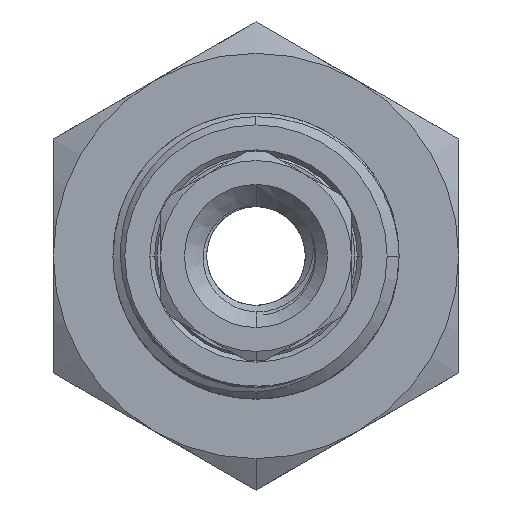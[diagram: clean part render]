
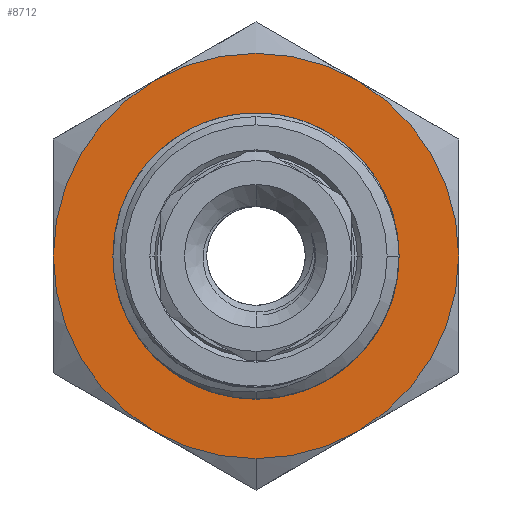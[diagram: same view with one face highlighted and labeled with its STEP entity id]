
A CAD part, front view. The second image highlights one B-rep face of the part: STEP entity #8712.
In plain terms, the highlighted planar face has unit normal (0, -1, 0).
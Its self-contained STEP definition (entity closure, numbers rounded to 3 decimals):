
#35 = CARTESIAN_POINT ( 'NONE',  ( 0., 10., 0. ) ) ;
#152 = CARTESIAN_POINT ( 'NONE',  ( -5.098, 10., -3.084 ) ) ;
#609 = CARTESIAN_POINT ( 'NONE',  ( 4.25, 10., -7.361 ) ) ;
#945 = AXIS2_PLACEMENT_3D ( 'NONE', #7595, #2870, #10724 ) ;
#962 = VERTEX_POINT ( 'NONE', #1435 ) ;
#966 = ORIENTED_EDGE ( 'NONE', *, *, #5799, .F. ) ;
#970 = FACE_BOUND ( 'NONE', #13805, .T. ) ;
#1306 = AXIS2_PLACEMENT_3D ( 'NONE', #5708, #9120, #1471 ) ;
#1435 = CARTESIAN_POINT ( 'NONE',  ( 8.5, 10., 0. ) ) ;
#1471 = DIRECTION ( 'NONE',  ( -0.5, 0., -0.866 ) ) ;
#1490 = DIRECTION ( 'NONE',  ( 0., 1., 0. ) ) ;
#1552 = EDGE_LOOP ( 'NONE', ( #11827, #12400, #3809, #8392, #966, #8370, #13989 ) ) ;
#1782 = CARTESIAN_POINT ( 'NONE',  ( 0., 10., 0. ) ) ;
#1849 = CARTESIAN_POINT ( 'NONE',  ( 0., 10., -8.5 ) ) ;
#1971 = EDGE_CURVE ( 'NONE', #9298, #13643, #8487, .T. ) ;
#1983 = CIRCLE ( 'NONE', #10104, 8.5 ) ;
#2010 = CARTESIAN_POINT ( 'NONE',  ( -4.25, 10., 7.361 ) ) ;
#2171 = ORIENTED_EDGE ( 'NONE', *, *, #1971, .T. ) ;
#2359 = CARTESIAN_POINT ( 'NONE',  ( 0., 10., 0. ) ) ;
#2370 = DIRECTION ( 'NONE',  ( 0., 1., 0. ) ) ;
#2431 = DIRECTION ( 'NONE',  ( 0., 1., 0. ) ) ;
#2562 = CARTESIAN_POINT ( 'NONE',  ( -4.25, 10., -7.361 ) ) ;
#2847 = EDGE_CURVE ( 'NONE', #7799, #9298, #4750, .T. ) ;
#2870 = DIRECTION ( 'NONE',  ( 0., -1., 0. ) ) ;
#3144 = AXIS2_PLACEMENT_3D ( 'NONE', #35, #12398, #6868 ) ;
#3288 = DIRECTION ( 'NONE',  ( 0., 1., 0. ) ) ;
#3383 = CARTESIAN_POINT ( 'NONE',  ( 0., 10., 0. ) ) ;
#3528 = EDGE_CURVE ( 'NONE', #13537, #10804, #7992, .T. ) ;
#3584 = CARTESIAN_POINT ( 'NONE',  ( -5.725, 10., -1.729 ) ) ;
#3603 = DIRECTION ( 'NONE',  ( 0.5, 0., 0.866 ) ) ;
#3809 = ORIENTED_EDGE ( 'NONE', *, *, #13885, .T. ) ;
#4327 = PLANE ( 'NONE',  #945 ) ;
#4446 = VERTEX_POINT ( 'NONE', #11579 ) ;
#4556 = DIRECTION ( 'NONE',  ( 0.5, 0., 0.866 ) ) ;
#4591 = CARTESIAN_POINT ( 'NONE',  ( -5.413, 10., -2.573 ) ) ;
#4750 = CIRCLE ( 'NONE', #13795, 5.959 ) ;
#5211 = ORIENTED_EDGE ( 'NONE', *, *, #14034, .T. ) ;
#5261 = AXIS2_PLACEMENT_3D ( 'NONE', #5354, #14283, #5567 ) ;
#5354 = CARTESIAN_POINT ( 'NONE',  ( 0., 10., 0. ) ) ;
#5567 = DIRECTION ( 'NONE',  ( -1., 0., 0. ) ) ;
#5579 = CARTESIAN_POINT ( 'NONE',  ( 0., 10., 0. ) ) ;
#5690 = CIRCLE ( 'NONE', #6422, 5.958 ) ;
#5708 = CARTESIAN_POINT ( 'NONE',  ( 0., 10., 0. ) ) ;
#5799 = EDGE_CURVE ( 'NONE', #962, #14288, #13916, .T. ) ;
#5943 = DIRECTION ( 'NONE',  ( -0.5, 0., -0.866 ) ) ;
#6422 = AXIS2_PLACEMENT_3D ( 'NONE', #2359, #2431, #10204 ) ;
#6448 = B_SPLINE_CURVE_WITH_KNOTS ( 'NONE', 3,
 ( #152, #13460, #4591, #12507 ),
 .UNSPECIFIED., .F., .F.,
 ( 4, 4 ),
 ( 0., 1. ),
 .UNSPECIFIED. ) ;
#6737 = AXIS2_PLACEMENT_3D ( 'NONE', #3383, #7817, #4556 ) ;
#6868 = DIRECTION ( 'NONE',  ( 1., 0., 0. ) ) ;
#6914 = ORIENTED_EDGE ( 'NONE', *, *, #7736, .T. ) ;
#7178 = VERTEX_POINT ( 'NONE', #2010 ) ;
#7236 = EDGE_CURVE ( 'NONE', #9598, #7178, #9755, .T. ) ;
#7521 = DIRECTION ( 'NONE',  ( 0., 1., 0. ) ) ;
#7531 = B_SPLINE_CURVE_WITH_KNOTS ( 'NONE', 3,
 ( #11501, #9246, #3584, #13829 ),
 .UNSPECIFIED., .F., .F.,
 ( 4, 4 ),
 ( 0., 1. ),
 .UNSPECIFIED. ) ;
#7574 = CARTESIAN_POINT ( 'NONE',  ( 0., 10., 0. ) ) ;
#7595 = CARTESIAN_POINT ( 'NONE',  ( 0., 10., 0. ) ) ;
#7697 = CARTESIAN_POINT ( 'NONE',  ( -5.783, 10., -1.434 ) ) ;
#7736 = EDGE_CURVE ( 'NONE', #4446, #7799, #7531, .T. ) ;
#7799 = VERTEX_POINT ( 'NONE', #7697 ) ;
#7817 = DIRECTION ( 'NONE',  ( 0., -1., 0. ) ) ;
#7898 = CARTESIAN_POINT ( 'NONE',  ( -5.098, 10., -3.084 ) ) ;
#7974 = ORIENTED_EDGE ( 'NONE', *, *, #2847, .T. ) ;
#7992 = CIRCLE ( 'NONE', #8462, 8.5 ) ;
#8307 = CARTESIAN_POINT ( 'NONE',  ( 0., 10., -5.958 ) ) ;
#8370 = ORIENTED_EDGE ( 'NONE', *, *, #8420, .F. ) ;
#8392 = ORIENTED_EDGE ( 'NONE', *, *, #12624, .T. ) ;
#8420 = EDGE_CURVE ( 'NONE', #9598, #962, #12555, .T. ) ;
#8462 = AXIS2_PLACEMENT_3D ( 'NONE', #9207, #1490, #5943 ) ;
#8487 = CIRCLE ( 'NONE', #3144, 5.958 ) ;
#8693 = VERTEX_POINT ( 'NONE', #1849 ) ;
#8712 = ADVANCED_FACE ( 'NONE', ( #970, #12841 ), #4327, .T. ) ;
#8958 = DIRECTION ( 'NONE',  ( -0.971, 0., -0.241 ) ) ;
#9120 = DIRECTION ( 'NONE',  ( 0., -1., 0. ) ) ;
#9207 = CARTESIAN_POINT ( 'NONE',  ( 0., 10., 0. ) ) ;
#9246 = CARTESIAN_POINT ( 'NONE',  ( -5.644, 10., -2.018 ) ) ;
#9298 = VERTEX_POINT ( 'NONE', #9373 ) ;
#9373 = CARTESIAN_POINT ( 'NONE',  ( 5.958, 10., 0. ) ) ;
#9598 = VERTEX_POINT ( 'NONE', #11184 ) ;
#9755 = CIRCLE ( 'NONE', #6737, 8.5 ) ;
#10104 = AXIS2_PLACEMENT_3D ( 'NONE', #7574, #13101, #12961 ) ;
#10125 = CIRCLE ( 'NONE', #5261, 8.5 ) ;
#10204 = DIRECTION ( 'NONE',  ( 1., 0., 0. ) ) ;
#10724 = DIRECTION ( 'NONE',  ( 1., 0., 0. ) ) ;
#10804 = VERTEX_POINT ( 'NONE', #11430 ) ;
#11184 = CARTESIAN_POINT ( 'NONE',  ( 4.25, 10., 7.361 ) ) ;
#11430 = CARTESIAN_POINT ( 'NONE',  ( -8.5, 10., 0. ) ) ;
#11501 = CARTESIAN_POINT ( 'NONE',  ( -5.541, 10., -2.301 ) ) ;
#11579 = CARTESIAN_POINT ( 'NONE',  ( -5.541, 10., -2.301 ) ) ;
#11751 = DIRECTION ( 'NONE',  ( 1., 0., 0. ) ) ;
#11827 = ORIENTED_EDGE ( 'NONE', *, *, #12382, .F. ) ;
#11830 = AXIS2_PLACEMENT_3D ( 'NONE', #1782, #7521, #11751 ) ;
#11996 = CIRCLE ( 'NONE', #1306, 8.5 ) ;
#12061 = VERTEX_POINT ( 'NONE', #7898 ) ;
#12105 = AXIS2_PLACEMENT_3D ( 'NONE', #5579, #2370, #3603 ) ;
#12221 = ORIENTED_EDGE ( 'NONE', *, *, #12536, .T. ) ;
#12382 = EDGE_CURVE ( 'NONE', #10804, #7178, #10125, .T. ) ;
#12398 = DIRECTION ( 'NONE',  ( 0., 1., 0. ) ) ;
#12400 = ORIENTED_EDGE ( 'NONE', *, *, #3528, .F. ) ;
#12507 = CARTESIAN_POINT ( 'NONE',  ( -5.541, 10., -2.301 ) ) ;
#12536 = EDGE_CURVE ( 'NONE', #13643, #12061, #5690, .T. ) ;
#12555 = CIRCLE ( 'NONE', #12105, 8.5 ) ;
#12624 = EDGE_CURVE ( 'NONE', #8693, #14288, #11996, .T. ) ;
#12841 = FACE_OUTER_BOUND ( 'NONE', #1552, .T. ) ;
#12961 = DIRECTION ( 'NONE',  ( -0.5, 0., -0.866 ) ) ;
#13101 = DIRECTION ( 'NONE',  ( 0., -1., 0. ) ) ;
#13187 = CARTESIAN_POINT ( 'NONE',  ( 0., 10., 0. ) ) ;
#13460 = CARTESIAN_POINT ( 'NONE',  ( -5.265, 10., -2.835 ) ) ;
#13537 = VERTEX_POINT ( 'NONE', #2562 ) ;
#13643 = VERTEX_POINT ( 'NONE', #8307 ) ;
#13795 = AXIS2_PLACEMENT_3D ( 'NONE', #13187, #3288, #8958 ) ;
#13805 = EDGE_LOOP ( 'NONE', ( #6914, #7974, #2171, #12221, #5211 ) ) ;
#13829 = CARTESIAN_POINT ( 'NONE',  ( -5.783, 10., -1.434 ) ) ;
#13885 = EDGE_CURVE ( 'NONE', #13537, #8693, #1983, .T. ) ;
#13916 = CIRCLE ( 'NONE', #11830, 8.5 ) ;
#13989 = ORIENTED_EDGE ( 'NONE', *, *, #7236, .T. ) ;
#14034 = EDGE_CURVE ( 'NONE', #12061, #4446, #6448, .T. ) ;
#14283 = DIRECTION ( 'NONE',  ( 0., 1., 0. ) ) ;
#14288 = VERTEX_POINT ( 'NONE', #609 ) ;
